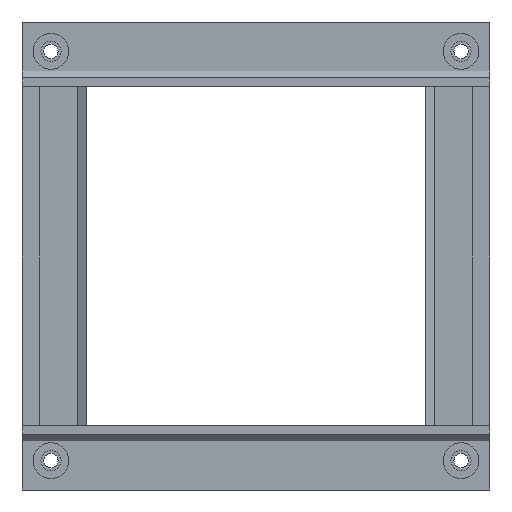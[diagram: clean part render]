
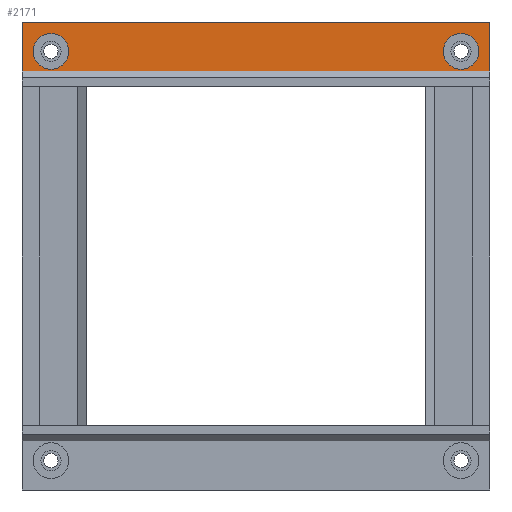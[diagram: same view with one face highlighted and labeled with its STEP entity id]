
A CAD part, front view. The second image highlights one B-rep face of the part: STEP entity #2171.
In plain terms, the highlighted planar face has unit normal (0, -1, 0).
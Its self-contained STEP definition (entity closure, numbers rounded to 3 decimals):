
#24 = EDGE_CURVE ( 'NONE', #1929, #1919, #210, .T. ) ;
#29 = VERTEX_POINT ( 'NONE', #220 ) ;
#43 = VERTEX_POINT ( 'NONE', #288 ) ;
#59 = EDGE_CURVE ( 'NONE', #43, #29, #342, .T. ) ;
#94 = EDGE_CURVE ( 'NONE', #1919, #1929, #539, .T. ) ;
#95 = ORIENTED_EDGE ( 'NONE', *, *, #59, .T. ) ;
#210 = CIRCLE ( 'NONE', #211, 4. ) ;
#211 = AXIS2_PLACEMENT_3D ( 'NONE', #212, #213, #214 ) ;
#212 = CARTESIAN_POINT ( 'NONE',  ( 46., -11., 45.9 ) ) ;
#213 = DIRECTION ( 'NONE',  ( 0., 1., 0. ) ) ;
#214 = DIRECTION ( 'NONE',  ( 0., 0., -1. ) ) ;
#220 = CARTESIAN_POINT ( 'NONE',  ( -52.5, -11., 41.5 ) ) ;
#237 = CARTESIAN_POINT ( 'NONE',  ( -46., -11., 41.9 ) ) ;
#288 = CARTESIAN_POINT ( 'NONE',  ( -52.5, -11., 52.5 ) ) ;
#299 = LINE ( 'NONE', #300, #301 ) ;
#300 = CARTESIAN_POINT ( 'NONE',  ( 52.5, -11., 41.5 ) ) ;
#301 = VECTOR ( 'NONE', #302, 1000. ) ;
#302 = DIRECTION ( 'NONE',  ( -1., 0., 0. ) ) ;
#342 = LINE ( 'NONE', #343, #344 ) ;
#343 = CARTESIAN_POINT ( 'NONE',  ( -52.5, -11., 52.5 ) ) ;
#344 = VECTOR ( 'NONE', #345, 1000. ) ;
#345 = DIRECTION ( 'NONE',  ( 0., 0., -1. ) ) ;
#511 = CARTESIAN_POINT ( 'NONE',  ( 52.5, -11., 41.5 ) ) ;
#539 = CIRCLE ( 'NONE', #540, 4. ) ;
#540 = AXIS2_PLACEMENT_3D ( 'NONE', #541, #542, #543 ) ;
#541 = CARTESIAN_POINT ( 'NONE',  ( 46., -11., 45.9 ) ) ;
#542 = DIRECTION ( 'NONE',  ( 0., 1., 0. ) ) ;
#543 = DIRECTION ( 'NONE',  ( 0., 0., -1. ) ) ;
#731 = ORIENTED_EDGE ( 'NONE', *, *, #2184, .F. ) ;
#750 = EDGE_LOOP ( 'NONE', ( #2192, #1127 ) ) ;
#915 = ORIENTED_EDGE ( 'NONE', *, *, #1271, .F. ) ;
#1014 = LINE ( 'NONE', #1015, #1016 ) ;
#1015 = CARTESIAN_POINT ( 'NONE',  ( 52.5, -11., 52.5 ) ) ;
#1016 = VECTOR ( 'NONE', #1017, 1000. ) ;
#1017 = DIRECTION ( 'NONE',  ( -1., 0., 0. ) ) ;
#1127 = ORIENTED_EDGE ( 'NONE', *, *, #24, .T. ) ;
#1271 = EDGE_CURVE ( 'NONE', #1985, #1546, #1471, .T. ) ;
#1301 = CARTESIAN_POINT ( 'NONE',  ( 46., -11., 41.9 ) ) ;
#1310 = LINE ( 'NONE', #1311, #1312 ) ;
#1311 = CARTESIAN_POINT ( 'NONE',  ( 52.5, -11., 52.5 ) ) ;
#1312 = VECTOR ( 'NONE', #1313, 1000. ) ;
#1313 = DIRECTION ( 'NONE',  ( 0., 0., -1. ) ) ;
#1326 = CARTESIAN_POINT ( 'NONE',  ( 46., -11., 49.9 ) ) ;
#1369 = CARTESIAN_POINT ( 'NONE',  ( 52.5, -11., 52.5 ) ) ;
#1438 = FACE_BOUND ( 'NONE', #1617, .T. ) ;
#1439 = FACE_OUTER_BOUND ( 'NONE', #1770, .T. ) ;
#1440 = FACE_BOUND ( 'NONE', #750, .T. ) ;
#1441 = PLANE ( 'NONE',  #1442 ) ;
#1442 = AXIS2_PLACEMENT_3D ( 'NONE', #1444, #1445, #1446 ) ;
#1444 = CARTESIAN_POINT ( 'NONE',  ( 52.5, -11., 52.5 ) ) ;
#1445 = DIRECTION ( 'NONE',  ( 0., 1., 0. ) ) ;
#1446 = DIRECTION ( 'NONE',  ( 0., 0., 1. ) ) ;
#1471 = CIRCLE ( 'NONE', #1472, 4. ) ;
#1472 = AXIS2_PLACEMENT_3D ( 'NONE', #1473, #1474, #1475 ) ;
#1473 = CARTESIAN_POINT ( 'NONE',  ( -46., -11., 45.9 ) ) ;
#1474 = DIRECTION ( 'NONE',  ( 0., -1., 0. ) ) ;
#1475 = DIRECTION ( 'NONE',  ( 0., 0., -1. ) ) ;
#1504 = CIRCLE ( 'NONE', #1505, 4. ) ;
#1505 = AXIS2_PLACEMENT_3D ( 'NONE', #1506, #1507, #1508 ) ;
#1506 = CARTESIAN_POINT ( 'NONE',  ( -46., -11., 45.9 ) ) ;
#1507 = DIRECTION ( 'NONE',  ( 0., -1., 0. ) ) ;
#1508 = DIRECTION ( 'NONE',  ( 0., 0., -1. ) ) ;
#1546 = VERTEX_POINT ( 'NONE', #1566 ) ;
#1566 = CARTESIAN_POINT ( 'NONE',  ( -46., -11., 49.9 ) ) ;
#1617 = EDGE_LOOP ( 'NONE', ( #915, #731 ) ) ;
#1756 = ORIENTED_EDGE ( 'NONE', *, *, #2004, .F. ) ;
#1770 = EDGE_LOOP ( 'NONE', ( #95, #1756, #1835, #1888 ) ) ;
#1835 = ORIENTED_EDGE ( 'NONE', *, *, #2149, .F. ) ;
#1888 = ORIENTED_EDGE ( 'NONE', *, *, #2114, .T. ) ;
#1919 = VERTEX_POINT ( 'NONE', #1301 ) ;
#1929 = VERTEX_POINT ( 'NONE', #1326 ) ;
#1938 = VERTEX_POINT ( 'NONE', #1369 ) ;
#1985 = VERTEX_POINT ( 'NONE', #237 ) ;
#2004 = EDGE_CURVE ( 'NONE', #2041, #29, #299, .T. ) ;
#2041 = VERTEX_POINT ( 'NONE', #511 ) ;
#2114 = EDGE_CURVE ( 'NONE', #1938, #43, #1014, .T. ) ;
#2149 = EDGE_CURVE ( 'NONE', #1938, #2041, #1310, .T. ) ;
#2171 = ADVANCED_FACE ( 'NONE', ( #1438, #1439, #1440 ), #1441, .F. ) ;
#2184 = EDGE_CURVE ( 'NONE', #1546, #1985, #1504, .T. ) ;
#2192 = ORIENTED_EDGE ( 'NONE', *, *, #94, .T. ) ;
